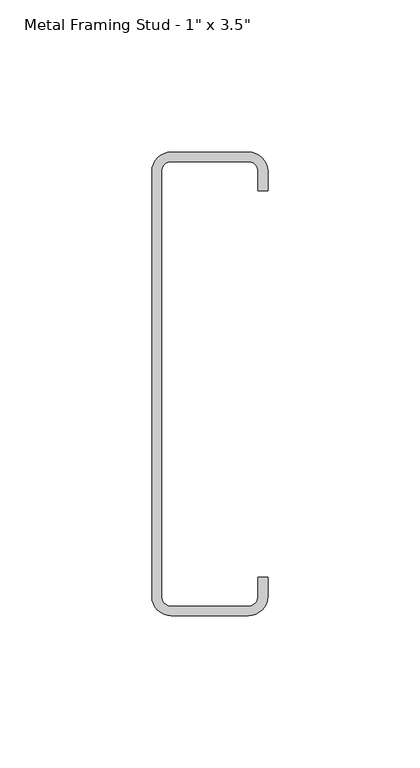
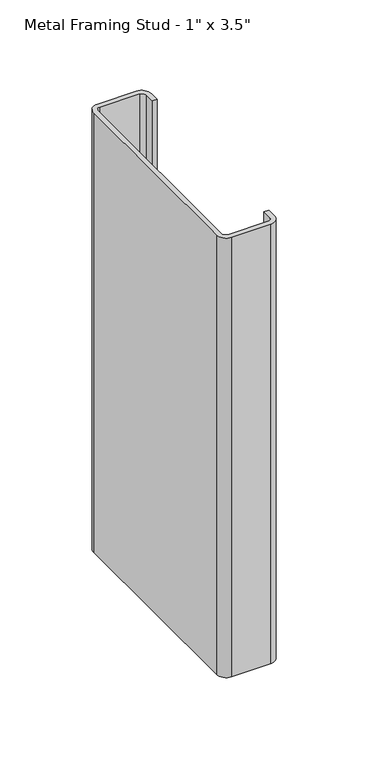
"""IFC4 building model written with IfcOpenShell, lengths in millimetres: proxy geometry."""

from ifc_helpers import new_model, si_unit, point, frame_2d, origin, origin_with_axes, place, context, project, spatial, polyline, circle_curve, trimmed, segment, composite_curve, outline, extrude, source, transform, mapped, element, save


def proxy_a3fd9b0b(model_context):
    return source(origin(), model_context, "Body", "SweptSolid", [
        extrude(outline(composite_curve([segment(polyline([(19.05, 63.5), (15.875, 63.5), (15.875, 70.2679713)]), True, "CONTINUOUS"), segment(trimmed(circle_curve(frame_2d((12.7, 69.85)), 3.2023936), [point((15.875, 70.2679713))], [point((13.1179713, 73.025))], True, "CARTESIAN"), True, "CONTINUOUS"), segment(polyline([(13.1179713, 73.025), (-13.1179713, 73.025)]), True, "CONTINUOUS"), segment(trimmed(circle_curve(frame_2d((-12.7, 69.85)), 3.2023936), [point((-13.1179713, 73.025))], [point((-15.875, 70.2679713))], True, "CARTESIAN"), True, "CONTINUOUS"), segment(polyline([(-15.875, 70.2679713), (-15.875, -70.2679713)]), True, "CONTINUOUS"), segment(trimmed(circle_curve(frame_2d((-12.7, -69.85)), 3.2023936), [point((-15.875, -70.2679713))], [point((-13.1179713, -73.025))], True, "CARTESIAN"), True, "CONTINUOUS"), segment(polyline([(-13.1179713, -73.025), (13.1179713, -73.025)]), True, "CONTINUOUS"), segment(trimmed(circle_curve(frame_2d((12.7, -69.85)), 3.2023936), [point((13.1179713, -73.025))], [point((15.875, -70.2679713))], True, "CARTESIAN"), True, "CONTINUOUS"), segment(polyline([(15.875, -70.2679713), (15.875, -63.5), (19.05, -63.5), (19.05, -69.85)]), True, "CONTINUOUS"), segment(trimmed(circle_curve(frame_2d((12.7, -69.85)), 6.35), [point((19.05, -69.85))], [point((12.7, -76.2))], False, "CARTESIAN"), True, "CONTINUOUS"), segment(polyline([(12.7, -76.2), (-12.7, -76.2)]), True, "CONTINUOUS"), segment(trimmed(circle_curve(frame_2d((-12.7, -69.85)), 6.35), [point((-12.7, -76.2))], [point((-19.05, -69.85))], False, "CARTESIAN"), True, "CONTINUOUS"), segment(polyline([(-19.05, -69.85), (-19.05, 69.85)]), True, "CONTINUOUS"), segment(trimmed(circle_curve(frame_2d((-12.7, 69.85)), 6.35), [point((-19.05, 69.85))], [point((-12.7, 76.2))], False, "CARTESIAN"), True, "CONTINUOUS"), segment(polyline([(-12.7, 76.2), (12.7, 76.2)]), True, "CONTINUOUS"), segment(trimmed(circle_curve(frame_2d((12.7, 69.85)), 6.35), [point((12.7, 76.2))], [point((19.05, 69.85))], False, "CARTESIAN"), True, "CONTINUOUS"), segment(polyline([(19.05, 69.85), (19.05, 63.5)]), True, "CONTINUOUS")], self_intersect=False)), origin_with_axes(), (0.0, 0.0, 1.0), 304.8),
    ])


if __name__ == "__main__":
    model = new_model("IFC4")
    model_context = context("Model", 3, world=origin())
    ifc_project = project(units=[si_unit("LENGTHUNIT", "METRE", prefix="MILLI")], contexts=[model_context])
    site = spatial("IfcSite", under=ifc_project)
    building = spatial("IfcBuilding", under=site)
    placement = place(None, origin())
    proxy_shape = proxy_a3fd9b0b(model_context)
    element("IfcBuildingElementProxy", 1, Name="CRAi Generic Model Metal Stud : Metal Framing Stud - 1\" x 3.5\"", ObjectType="CRAi Generic Model Metal Stud : Metal Framing Stud - 1\" x 3.5\"", at=placement, inside=building, context=model_context, shape_type="MappedRepresentation", body=[
        mapped(proxy_shape, transform((0.0, 0.0, 0.0), x_axis=(1.0, 0.0, 0.0), y_axis=(0.0, 1.0, 0.0), z_axis=(0.0, 0.0, 1.0))),
    ])
    save(model, "model.ifc")
